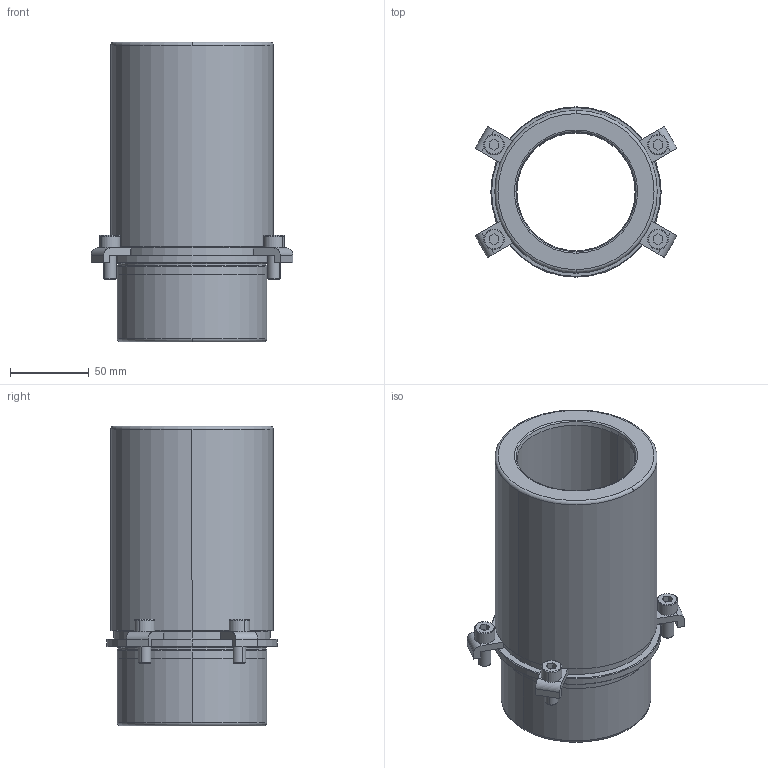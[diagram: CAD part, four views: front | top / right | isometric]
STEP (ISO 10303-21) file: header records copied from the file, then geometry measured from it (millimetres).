
FILE_DESCRIPTION((''),'2;1');
FILE_NAME('B40_063_140.stp','2009-01-05T16:44:20',(''),(''),'Mechanical Desktop 2009','Mechanical Desktop 2009',', , ');
FILE_SCHEMA(('CONFIG_CONTROL_DESIGN'));
Length unit declared in the file: millimetre
Products named in the file (2): Product; blmdl1
Assembly tree (1 placements, depth 2):
  Product
    blmdl1
Bounding box: 127.98 x 108 x 190 mm (x, y, z)
Volume: 694801 mm3; surface area: 123486.6 mm2
Topology: 9 solids, 9 shells, 181 faces, 446 edges, 294 vertices
Faces by surface type: plane 81, cylinder 50, cone 22, torus 16, bspline 12
Entity records: 6031 total; most frequent: CARTESIAN_POINT 1451, DIRECTION 1006, ORIENTED_EDGE 892, EDGE_CURVE 446, AXIS2_PLACEMENT_3D 389, VERTEX_POINT 294, VECTOR 228, LINE 228
